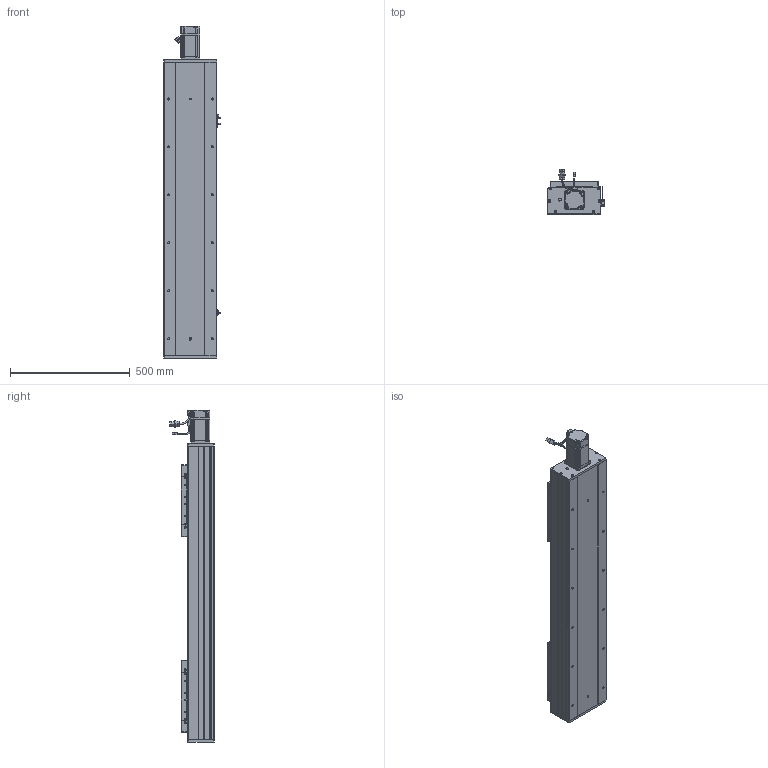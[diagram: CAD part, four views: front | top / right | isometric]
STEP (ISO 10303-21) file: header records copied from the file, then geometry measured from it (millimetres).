
FILE_DESCRIPTION (( 'STEP AP203' ), '1' );
FILE_NAME ('RY220F-L2525-300-MK.SLDASM_800.step', '2022-07-04T01:03:36', ( '' ), ( '' ), 'SwSTEP 2.0', 'SolidWorks 2016', '' );
FILE_SCHEMA (( 'CONFIG_CONTROL_DESIGN' ));
Length unit declared in the file: millimetre
Products named in the file (15): RY220F-詩湍揤踡輸; RY220F綴裔啣; RY220F-奻裔啣-300_800; 覜茼ん672; RY220F-滅鳥奻裔; 怢湛750W_ECMA-CX0807ES; RY220F臏賑釱25-32佪裝; RY220F-672覜茼んえ; RY220Fヶ裔啣; RY220F-祥凄詩湍-MK-300_800; RY220F-L2525-300-MK.SLDASM_800; RY220F菁釱MK-300_800; RY220电机支撑座FK20（PCD90M6）; 滅袉蝶18-20; 滅袉蝶18-24
Assembly tree (23 placements, depth 2):
  RY220F-L2525-300-MK.SLDASM_800
    RY220F菁釱MK-300_800
    RY220电机支撑座FK20（PCD90M6）
    RY220F-奻裔啣-300_800  x2
    怢湛750W_ECMA-CX0807ES
    RY220F臏賑釱25-32佪裝  x2
    RY220F-滅鳥奻裔  x2
    滅袉蝶18-20
    滅袉蝶18-24  x3
    RY220Fヶ裔啣
    RY220F綴裔啣
    RY220F-祥凄詩湍-MK-300_800
    RY220F-詩湍揤踡輸  x2
    覜茼ん672  x3
    RY220F-672覜茼んえ  x2
Bounding box: 233.7 x 187.27 x 1384.3 mm (x, y, z)
Volume: 13525619.6 mm3; surface area: 3314991.1 mm2
Topology: 24 solids, 24 shells, 2722 faces, 7462 edges, 4628 vertices
Faces by surface type: cylinder 1226, plane 1030, cone 403, bspline 37, sphere 16, torus 10
Entity records: 67850 total; most frequent: CARTESIAN_POINT 18304, ORIENTED_EDGE 10050, DIRECTION 9742, EDGE_CURVE 5025, AXIS2_PLACEMENT_3D 3459, VERTEX_POINT 3268, VECTOR 2824, LINE 2824
